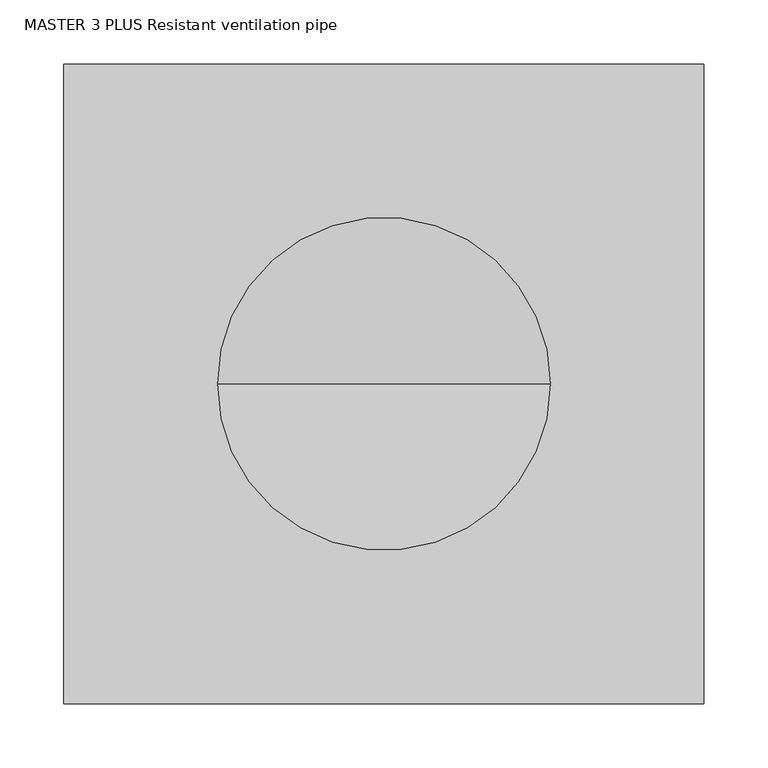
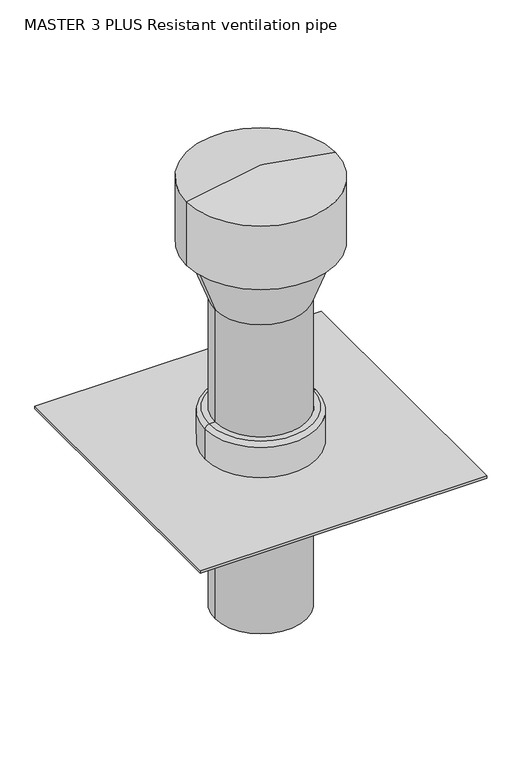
"""IFC4 building model written with IfcOpenShell, lengths in millimetres: valve geometry, MASTER 3 PLUS Resistant ventilation pipe : DN160, Lesp = 300, L3 = 510 mm."""

from ifc_helpers import new_model, si_unit, point, frame, origin, origin_with_axes, origin_2d, place, context, project, spatial, polyline, circle_curve, ellipse_curve, trimmed, segment, composite_curve, outline, extrude, source, transform, mapped, element, save
from ifc_brep_helpers import plane_surface, cylinder_surface, revolved_surface, advanced_brep


def master_3_plus_resistant_ventilation_pipe_93763213(model_context):
    return source(origin(), model_context, "Body", "SolidModel", [
        extrude(outline(polyline([(250.0, 250.0), (250.0, -250.0), (-250.0, -250.0), (-250.0, 250.0), (250.0, 250.0)]), holes=[composite_curve([segment(trimmed(circle_curve(origin_2d(), 80.0), [point((-80.0, 0.0))], [point((80.0, 0.0))], True, "CARTESIAN"), True, "CONTINUOUS"), segment(trimmed(circle_curve(origin_2d(), 80.0), [point((80.0, 0.0))], [point((-80.0, 0.0))], True, "CARTESIAN"), True, "CONTINUOUS")], self_intersect=False)]), frame((0.0, 0.0, 294.9838403), z_axis=(0.0, 0.0, 1.0), x_axis=(1.0, 0.0, 0.0)), (0.0, 0.0, 1.0), 5.0161597),
        advanced_brep(
        [(97.5, 0.0, 300.0), (-97.5, 0.0, 300.0), (-97.5, 0.0, 355.75), (97.5, 0.0, 355.75), (80.0, 0.0, 300.0), (-80.0, 0.0, 300.0), (80.0, 0.0, 363.0), (-80.0, 0.0, 363.0), (90.25, 0.0, 363.0), (-90.25, 0.0, 363.0)],
        [
            (0, 1, circle_curve(frame((0.0, 0.0, 300.0), z_axis=(0.0, 0.0, 1.0), x_axis=(-1.0, 0.0, 0.0)), 97.5)),
            (1, 2),
            (2, 3, circle_curve(frame((0.0, 0.0, 355.75), z_axis=(0.0, 0.0, -1.0), x_axis=(-1.0, 0.0, 0.0)), 97.5)),
            (3, 0),
            (1, 0, circle_curve(frame((0.0, 0.0, 300.0), z_axis=(0.0, 0.0, 1.0), x_axis=(-1.0, 0.0, 0.0)), 97.5)),
            (3, 2, circle_curve(frame((0.0, 0.0, 355.75), z_axis=(0.0, 0.0, -1.0), x_axis=(-1.0, 0.0, 0.0)), 97.5)),
            (4, 5, circle_curve(frame((0.0, 0.0, 300.0), z_axis=(0.0, 0.0, 1.0), x_axis=(-1.0, 0.0, 0.0)), 80.0)),
            (5, 1),
            (0, 4),
            (5, 4, circle_curve(frame((0.0, 0.0, 300.0), z_axis=(0.0, 0.0, 1.0), x_axis=(-1.0, 0.0, 0.0)), 80.0)),
            (6, 7, circle_curve(frame((0.0, 0.0, 363.0), z_axis=(0.0, 0.0, 1.0), x_axis=(-1.0, 0.0, 0.0)), 80.0)),
            (7, 5),
            (4, 6),
            (7, 6, circle_curve(frame((0.0, 0.0, 363.0), z_axis=(0.0, 0.0, 1.0), x_axis=(-1.0, 0.0, 0.0)), 80.0)),
            (8, 9, circle_curve(frame((0.0, 0.0, 363.0), z_axis=(0.0, 0.0, 1.0), x_axis=(-1.0, 0.0, 0.0)), 90.25)),
            (9, 7),
            (6, 8),
            (9, 8, circle_curve(frame((0.0, 0.0, 363.0), z_axis=(0.0, 0.0, 1.0), x_axis=(-1.0, 0.0, 0.0)), 90.25)),
            (2, 9, circle_curve(frame((-90.25, 0.0, 355.75), z_axis=(0.0, 1.0, 0.0), x_axis=(1.0, 0.0, 0.0)), 7.25)),
            (8, 3, circle_curve(frame((90.25, 0.0, 355.75), z_axis=(0.0, 1.0, 0.0), x_axis=(-1.0, 0.0, 0.0)), 7.25)),
        ],
        [
            cylinder_surface(frame((0.0, 0.0, 363.0), z_axis=(0.0, 0.0, -1.0), x_axis=(-1.0, 0.0, 0.0)), 97.5),
            plane_surface(frame((0.0, 0.0, 300.0), z_axis=(0.0, 0.0, -1.0), x_axis=(-1.0, 0.0, 0.0))),
            revolved_surface(polyline([(-80.0, 0.0, 300.0), (-80.0, 0.0, 363.0)]), (0.0, 0.0, 363.0), (0.0, 0.0, -1.0)),
            plane_surface(frame((0.0, 0.0, 363.0), z_axis=(0.0, 0.0, 1.0), x_axis=(-1.0, 0.0, 0.0))),
            revolved_surface(trimmed(ellipse_curve(frame((-90.25, 0.0, 355.75), z_axis=(0.0, -1.0, 0.0), x_axis=(1.0, 0.0, 0.0)), 7.25, 7.25), [point((-90.25, 0.0, 363.0))], [point((-97.5, 0.0, 355.75))], True, "CARTESIAN"), (0.0, 0.0, 363.0), (0.0, 0.0, -1.0)),
        ],
        [
            (0, [[1, 2, 3, 4]]),
            (0, [[5, -4, 6, -2]]),
            (1, [[7, 8, -1, 9]]),
            (1, [[10, -9, -5, -8]]),
            (2, [[11, 12, -7, 13]]),
            (2, [[14, -13, -10, -12]]),
            (3, [[15, 16, -11, 17]]),
            (3, [[18, -17, -14, -16]]),
            (4, [[-3, 19, -15, 20]]),
            (4, [[-6, -20, -18, -19]]),
        ],
    ),
        advanced_brep(
        [(80.0, 0.0, 570.0), (-80.0, 0.0, 570.0), (-116.3970234, 0.0, 670.0), (116.3970234, 0.0, 670.0), (0.0, 0.0, 570.0), (130.0, 0.0, 787.0774925), (-130.0, 0.0, 787.0774925), (0.0, 0.0, 810.0), (130.0, 0.0, 670.0), (-130.0, 0.0, 670.0)],
        [
            (0, 1, circle_curve(frame((0.0, 0.0, 570.0), z_axis=(0.0, 0.0, 1.0), x_axis=(-1.0, 0.0, 0.0)), 80.0)),
            (1, 2),
            (2, 3, circle_curve(frame((0.0, 0.0, 670.0), z_axis=(0.0, 0.0, -1.0), x_axis=(-1.0, 0.0, 0.0)), 116.3970234)),
            (3, 0),
            (1, 0, circle_curve(frame((0.0, 0.0, 570.0), z_axis=(0.0, 0.0, 1.0), x_axis=(-1.0, 0.0, 0.0)), 80.0)),
            (3, 2, circle_curve(frame((0.0, 0.0, 670.0), z_axis=(0.0, 0.0, -1.0), x_axis=(-1.0, 0.0, 0.0)), 116.3970234)),
            (4, 1),
            (0, 4),
            (5, 6, circle_curve(frame((0.0, 0.0, 787.0774925), z_axis=(0.0, 0.0, 1.0), x_axis=(-1.0, 0.0, 0.0)), 130.0)),
            (6, 7),
            (7, 5),
            (6, 5, circle_curve(frame((0.0, 0.0, 787.0774925), z_axis=(0.0, 0.0, 1.0), x_axis=(-1.0, 0.0, 0.0)), 130.0)),
            (8, 9, circle_curve(frame((0.0, 0.0, 670.0), z_axis=(0.0, 0.0, 1.0), x_axis=(-1.0, 0.0, 0.0)), 130.0)),
            (9, 6),
            (5, 8),
            (9, 8, circle_curve(frame((0.0, 0.0, 670.0), z_axis=(0.0, 0.0, 1.0), x_axis=(-1.0, 0.0, 0.0)), 130.0)),
            (2, 9),
            (8, 3),
        ],
        [
            revolved_surface(polyline([(-116.3970234, 0.0, 670.0), (-80.0, 0.0, 570.0)]), (0.0, 0.0, 810.0), (0.0, 0.0, -1.0)),
            plane_surface(frame((0.0, 0.0, 570.0), z_axis=(0.0, 0.0, -1.0), x_axis=(-1.0, 0.0, 0.0))),
            revolved_surface(polyline([(0.0, 0.0, 810.0), (-130.0, 0.0, 787.0774925)]), (0.0, 0.0, 810.0), (0.0, 0.0, -1.0)),
            cylinder_surface(frame((0.0, 0.0, 810.0), z_axis=(0.0, 0.0, -1.0), x_axis=(-1.0, 0.0, 0.0)), 130.0),
            plane_surface(frame((0.0, 0.0, 670.0), z_axis=(0.0, 0.0, -1.0), x_axis=(-1.0, 0.0, 0.0))),
        ],
        [
            (0, [[1, 2, 3, 4]]),
            (0, [[5, -4, 6, -2]]),
            (1, [[7, -1, 8]]),
            (1, [[-8, -5, -7]]),
            (2, [[9, 10, 11]]),
            (2, [[12, -11, -10]]),
            (3, [[13, 14, -9, 15]]),
            (3, [[16, -15, -12, -14]]),
            (4, [[-3, 17, -13, 18]]),
            (4, [[-6, -18, -16, -17]]),
        ],
    ),
        extrude(outline(composite_curve([segment(trimmed(circle_curve(origin_2d(), 80.0), [point((80.0, 0.0))], [point((-80.0, 0.0))], False, "CARTESIAN"), True, "CONTINUOUS"), segment(trimmed(circle_curve(origin_2d(), 80.0), [point((-80.0, 0.0))], [point((80.0, 0.0))], False, "CARTESIAN"), True, "CONTINUOUS")], self_intersect=False)), frame((0.0, 0.0, 300.0), z_axis=(0.0, 0.0, 1.0), x_axis=(1.0, 0.0, 0.0)), (0.0, 0.0, 1.0), 370.0),
        extrude(outline(composite_curve([segment(trimmed(circle_curve(origin_2d(), 80.0), [point((-80.0, 0.0))], [point((80.0, 0.0))], False, "CARTESIAN"), True, "CONTINUOUS"), segment(trimmed(circle_curve(origin_2d(), 80.0), [point((80.0, 0.0))], [point((-80.0, 0.0))], False, "CARTESIAN"), True, "CONTINUOUS")], self_intersect=False)), origin_with_axes(), (0.0, 0.0, 1.0), 294.9838403),
    ])


if __name__ == "__main__":
    model = new_model("IFC4")
    model_context = context("Model", 3, world=origin())
    ifc_project = project(units=[si_unit("LENGTHUNIT", "METRE", prefix="MILLI")], contexts=[model_context])
    site = spatial("IfcSite", under=ifc_project)
    building = spatial("IfcBuilding", under=site)
    placement = place(None, origin())
    master_3_plus_resistant_ventilation_pipe_shape = master_3_plus_resistant_ventilation_pipe_93763213(model_context)
    element("IfcValve", 1, ObjectType="MASTER 3 PLUS Resistant ventilation pipe : DN160, Lesp = 300, L3 = 510 mm", at=placement, inside=building, context=model_context, shape_type="MappedRepresentation", body=[
        mapped(master_3_plus_resistant_ventilation_pipe_shape, transform((0.0, 0.0, 0.0), x_axis=(1.0, 0.0, 0.0), y_axis=(0.0, 1.0, 0.0), z_axis=(0.0, 0.0, 1.0))),
    ])
    save(model, "model.ifc")
